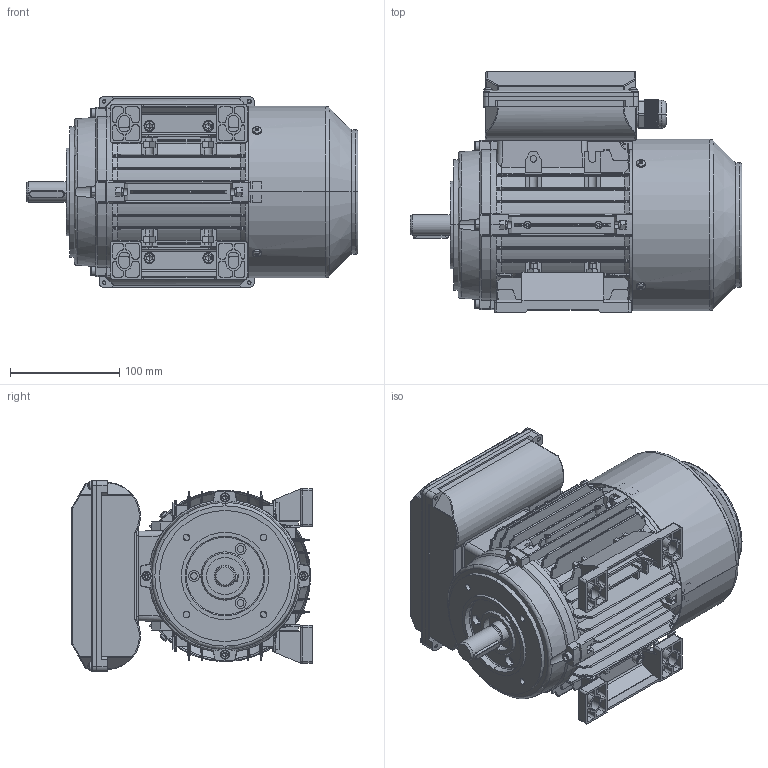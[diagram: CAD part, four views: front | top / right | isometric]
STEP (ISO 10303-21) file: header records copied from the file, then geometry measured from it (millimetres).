
FILE_DESCRIPTION (( 'STEP AP203' ), '1' );
FILE_NAME ('ML2 80 B34(臏諉盄碟)(樓酗).STEP', '2024-01-22T08:39:10', ( '' ), ( '' ), 'SwSTEP 2.0', 'SolidWorks 2016', '' );
FILE_SCHEMA (( 'CONFIG_CONTROL_DESIGN' ));
Length unit declared in the file: millimetre
Products named in the file (19): ML80-90铝接线盒组合II（加长）; ML2 80 B34(臏諉盄碟)(樓酗); 瑞珔; TA80樓旮綴裔1; T80菁褐; TA80瑞欶ㄗ樓酗ㄘ; 80-100堤盄蹟杶; T80儂褲; plain parallel keys_GB_CONNECTING_PIECE_KEYS_CSK 6X32; ML80-ML90諉盄碟釱(樓酗)(臏II); hexagon nuts grade c gb_GB_FASTENER_NUT_SNC1 M6-N; hexagon socket head cap screws gb_GB_FASTENER_SCREWS_HSHCS M6X20-N; hexagon nuts grade c gb_GB_FASTENER_NUT_SNC1 M5-N; cross recessed thread forming screws gb_GB_CROSS_SCREWS_TYPE138 M4X12-N; TA80 B14傷裔1; hexagon socket head cap screws gb_GB_FASTENER_SCREWS_HSHCS M5X25-N; TA80蛌粣ㄗ樓酗ㄘ; cross recessed thread forming screws gb_GB_CROSS_SCREWS_TYPE138 M4X8X6.6-N; ML80-ML90諉盄碟裔(樓酗)(臏II)
Assembly tree (45 placements, depth 3):
  ML2 80 B34(臏諉盄碟)(樓酗)
    T80儂褲
    T80菁褐  x2
    TA80瑞欶ㄗ樓酗ㄘ
    TA80蛌粣ㄗ樓酗ㄘ
    TA80樓旮綴裔1
    瑞珔
    hexagon socket head cap screws gb_GB_FASTENER_SCREWS_HSHCS M5X25-N  x8
    hexagon nuts grade c gb_GB_FASTENER_NUT_SNC1 M5-N  x8
    cross recessed thread forming screws gb_GB_CROSS_SCREWS_TYPE138 M4X12-N  x4
    plain parallel keys_GB_CONNECTING_PIECE_KEYS_CSK 6X32
    hexagon socket head cap screws gb_GB_FASTENER_SCREWS_HSHCS M6X20-N  x4
    hexagon nuts grade c gb_GB_FASTENER_NUT_SNC1 M6-N  x4
    TA80 B14傷裔1
    ML80-90铝接线盒组合II（加长）
      ML80-ML90諉盄碟釱(樓酗)(臏II)
      ML80-ML90諉盄碟裔(樓酗)(臏II)
      cross recessed thread forming screws gb_GB_CROSS_SCREWS_TYPE138 M4X8X6.6-N  x4
      80-100堤盄蹟杶
Bounding box: 304 x 220.5 x 175 mm (x, y, z)
Volume: 1055581 mm3; surface area: 760526.3 mm2
Topology: 44 solids, 44 shells, 4318 faces, 11240 edges, 7064 vertices
Faces by surface type: plane 2323, cylinder 1109, cone 322, bspline 242, torus 190, sphere 132
Entity records: 124434 total; most frequent: CARTESIAN_POINT 34851, ORIENTED_EDGE 18990, DIRECTION 16976, EDGE_CURVE 9495, VERTEX_POINT 6016, AXIS2_PLACEMENT_3D 5786, VECTOR 5404, LINE 5404
